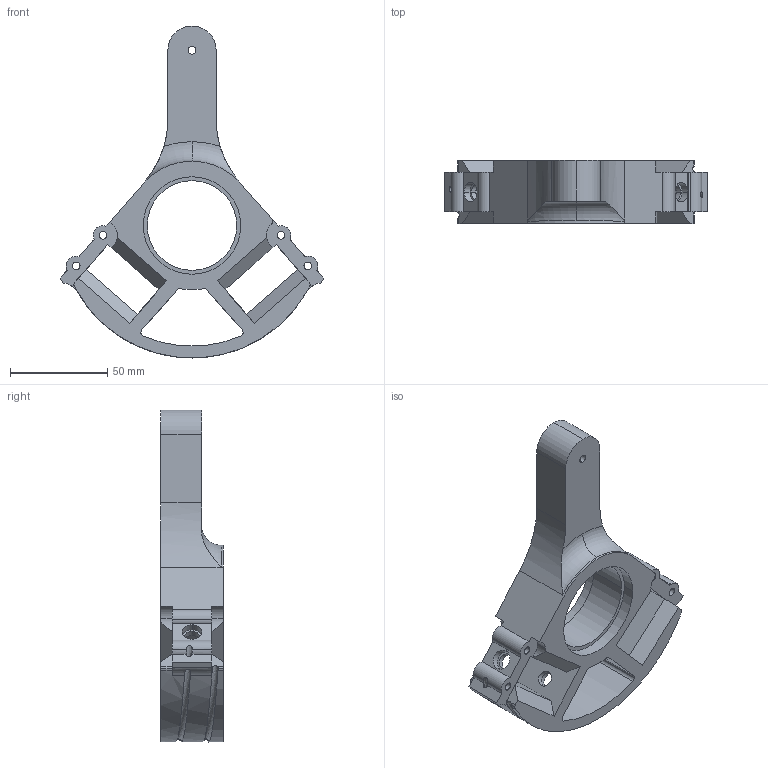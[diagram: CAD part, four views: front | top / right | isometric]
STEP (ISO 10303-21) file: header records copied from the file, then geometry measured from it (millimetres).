
FILE_DESCRIPTION (( 'STEP AP214' ), '1' );
FILE_NAME ('Big_Drum_Hip.STEP', '2026-07-28T10:09:19', ( '' ), ( '' ), 'SwSTEP 2.0', 'SolidWorks 2024', '' );
FILE_SCHEMA (( 'AUTOMOTIVE_DESIGN' ));
Length unit declared in the file: millimetre
Products named in the file (1): Big_Drum_Hip
Bounding box: 135.14 x 32.2 x 170.39 mm (x, y, z)
Volume: 173305 mm3; surface area: 43215.7 mm2
Topology: 1 solids, 1 shells, 147 faces, 428 edges, 280 vertices
Faces by surface type: cylinder 93, plane 46, bspline 6, torus 2
Entity records: 5855 total; most frequent: CARTESIAN_POINT 1850, ORIENTED_EDGE 856, DIRECTION 832, EDGE_CURVE 428, AXIS2_PLACEMENT_3D 316, VERTEX_POINT 280, LINE 200, VECTOR 200
